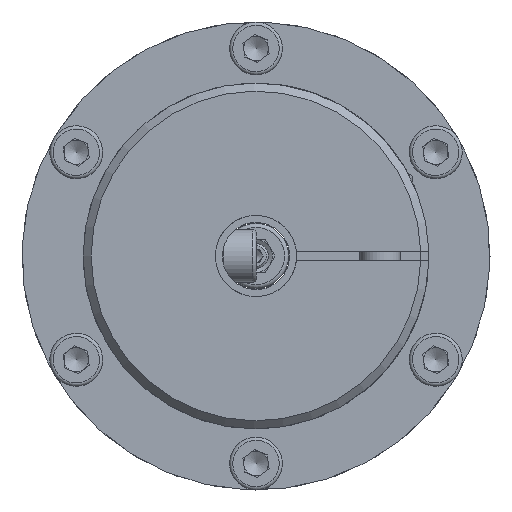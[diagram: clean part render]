
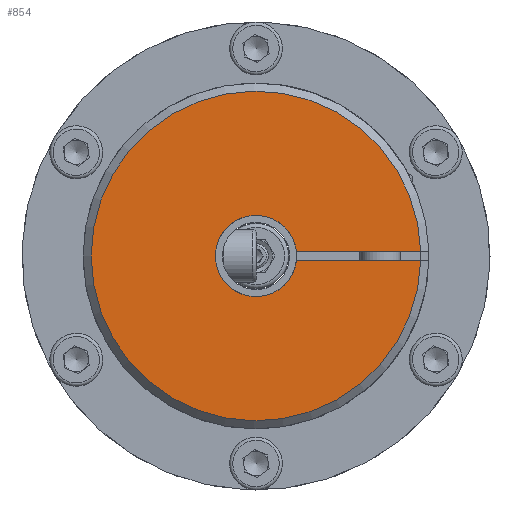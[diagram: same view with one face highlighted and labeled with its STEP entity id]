
A CAD part, left-side view. The second image highlights one B-rep face of the part: STEP entity #854.
In plain terms, the highlighted planar face has unit normal (-1, 0, 0).
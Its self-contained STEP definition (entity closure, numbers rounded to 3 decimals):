
#854 = ADVANCED_FACE( '', ( #1736 ), #1737, .F. );
#1736 = FACE_OUTER_BOUND( '', #2923, .T. );
#1737 = PLANE( '', #2924 );
#2923 = EDGE_LOOP( '', ( #5670, #5671, #5672, #5673 ) );
#2924 = AXIS2_PLACEMENT_3D( '', #5674, #5675, #5676 );
#5670 = ORIENTED_EDGE( '', *, *, #7787, .T. );
#5671 = ORIENTED_EDGE( '', *, *, #7779, .T. );
#5672 = ORIENTED_EDGE( '', *, *, #7504, .F. );
#5673 = ORIENTED_EDGE( '', *, *, #7473, .T. );
#5674 = CARTESIAN_POINT( '', ( -43., 0., 40.5 ) );
#5675 = DIRECTION( '', ( 1., 0., 0. ) );
#5676 = DIRECTION( '', ( 0., 0., -1. ) );
#7473 = EDGE_CURVE( '', #8971, #8969, #8972, .T. );
#7504 = EDGE_CURVE( '', #8971, #9031, #9032, .T. );
#7779 = EDGE_CURVE( '', #9485, #9031, #9486, .T. );
#7787 = EDGE_CURVE( '', #8969, #9485, #9499, .T. );
#8969 = VERTEX_POINT( '', #13143 );
#8971 = VERTEX_POINT( '', #13148 );
#8972 = LINE( '', #13149, #13150 );
#9031 = VERTEX_POINT( '', #13212 );
#9032 = CIRCLE( '', #13213, 10. );
#9485 = VERTEX_POINT( '', #14288 );
#9486 = LINE( '', #14289, #14290 );
#9499 = CIRCLE( '', #14319, 40.5 );
#13143 = CARTESIAN_POINT( '', ( -43., -37.023, 16.418 ) );
#13148 = CARTESIAN_POINT( '', ( -43., -8.81, 4.732 ) );
#13149 = CARTESIAN_POINT( '', ( -43., -13.936, 6.855 ) );
#13150 = VECTOR( '', #15889, 1000. );
#13212 = CARTESIAN_POINT( '', ( -43., -9.575, 2.884 ) );
#13213 = AXIS2_PLACEMENT_3D( '', #15974, #15975, #15976 );
#14288 = CARTESIAN_POINT( '', ( -43., -37.788, 14.57 ) );
#14289 = CARTESIAN_POINT( '', ( -43., -14.702, 5.007 ) );
#14290 = VECTOR( '', #16416, 1000. );
#14319 = AXIS2_PLACEMENT_3D( '', #16427, #16428, #16429 );
#15889 = DIRECTION( '', ( 0., -0.924, 0.383 ) );
#15974 = CARTESIAN_POINT( '', ( -43., 0., 0. ) );
#15975 = DIRECTION( '', ( -1., 0., 0. ) );
#15976 = DIRECTION( '', ( 0., 0., 1. ) );
#16416 = DIRECTION( '', ( 0., 0.924, -0.383 ) );
#16427 = CARTESIAN_POINT( '', ( -43., 0., 0. ) );
#16428 = DIRECTION( '', ( -1., 0., 0. ) );
#16429 = DIRECTION( '', ( 0., 0., 1. ) );
